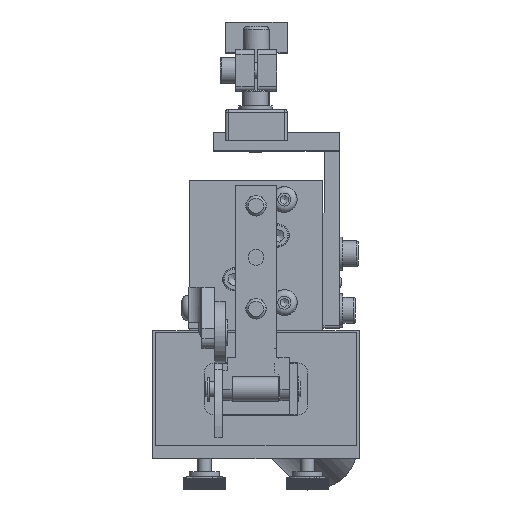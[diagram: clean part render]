
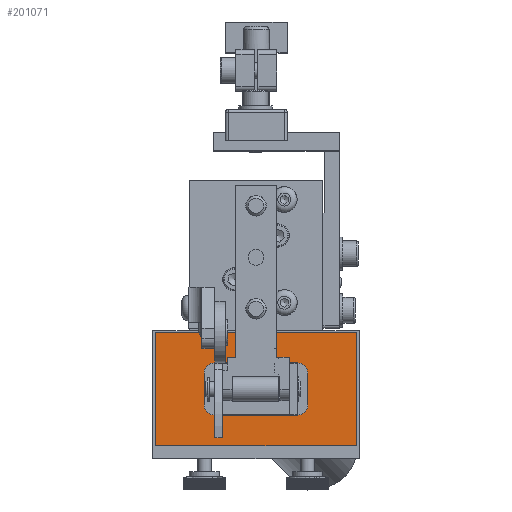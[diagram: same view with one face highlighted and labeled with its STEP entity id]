
A CAD part, top view. The second image highlights one B-rep face of the part: STEP entity #201071.
In plain terms, the highlighted planar face has unit normal (0, 0, 1).
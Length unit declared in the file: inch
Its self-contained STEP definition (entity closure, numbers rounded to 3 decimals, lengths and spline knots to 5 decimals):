
#200602=CARTESIAN_POINT('',(0.73008,1.04115,1.45));
#200603=VERTEX_POINT('',#200602);
#200610=CARTESIAN_POINT('',(0.73008,-0.33285,1.45));
#200611=VERTEX_POINT('',#200610);
#200612=CARTESIAN_POINT('',(0.73008,1.04115,1.45));
#200613=DIRECTION('',(0.0,-1.0,0.0));
#200614=VECTOR('',#200613,1.374);
#200615=LINE('',#200612,#200614);
#200616=EDGE_CURVE('',#200603,#200611,#200615,.T.);
#200634=CARTESIAN_POINT('',(-1.70592,-0.33285,1.45));
#200635=VERTEX_POINT('',#200634);
#200636=CARTESIAN_POINT('',(0.73008,-0.33285,1.45));
#200637=DIRECTION('',(-1.0,0.0,0.0));
#200638=VECTOR('',#200637,2.436);
#200639=LINE('',#200636,#200638);
#200640=EDGE_CURVE('',#200611,#200635,#200639,.T.);
#200658=CARTESIAN_POINT('',(-1.70592,1.04115,1.45));
#200659=VERTEX_POINT('',#200658);
#200660=CARTESIAN_POINT('',(-1.70592,-0.33285,1.45));
#200661=DIRECTION('',(0.0,1.0,0.0));
#200662=VECTOR('',#200661,1.374);
#200663=LINE('',#200660,#200662);
#200664=EDGE_CURVE('',#200635,#200659,#200663,.T.);
#200682=CARTESIAN_POINT('',(-1.70592,1.04115,1.45));
#200683=DIRECTION('',(1.0,0.0,0.0));
#200684=VECTOR('',#200683,2.436);
#200685=LINE('',#200682,#200684);
#200686=EDGE_CURVE('',#200659,#200603,#200685,.T.);
#200866=CARTESIAN_POINT('',(0.01708,0.03815,1.45));
#200867=VERTEX_POINT('',#200866);
#200868=CARTESIAN_POINT('',(-0.99292,0.03815,1.45));
#200869=VERTEX_POINT('',#200868);
#200870=CARTESIAN_POINT('',(0.01708,0.03815,1.45));
#200871=DIRECTION('',(-1.0,0.0,0.0));
#200872=VECTOR('',#200871,1.01);
#200873=LINE('',#200870,#200872);
#200874=EDGE_CURVE('',#200867,#200869,#200873,.T.);
#200906=CARTESIAN_POINT('',(0.14208,0.16315,1.45));
#200907=VERTEX_POINT('',#200906);
#200908=CARTESIAN_POINT('',(0.01708,0.16315,1.45));
#200909=DIRECTION('',(0.0,0.0,-1.0));
#200910=DIRECTION('',(0.0,-1.0,0.0));
#200911=AXIS2_PLACEMENT_3D('',#200908,#200909,#200910);
#200912=CIRCLE('',#200911,0.125);
#200913=EDGE_CURVE('',#200907,#200867,#200912,.T.);
#200939=CARTESIAN_POINT('',(0.14208,0.54515,1.45));
#200940=VERTEX_POINT('',#200939);
#200941=CARTESIAN_POINT('',(0.14208,0.54515,1.45));
#200942=DIRECTION('',(0.0,-1.0,0.0));
#200943=VECTOR('',#200942,0.382);
#200944=LINE('',#200941,#200943);
#200945=EDGE_CURVE('',#200940,#200907,#200944,.T.);
#200970=CARTESIAN_POINT('',(0.01708,0.67015,1.45));
#200971=VERTEX_POINT('',#200970);
#200972=CARTESIAN_POINT('',(0.01708,0.54515,1.45));
#200973=DIRECTION('',(0.0,0.0,-1.0));
#200974=DIRECTION('',(1.0,0.0,0.0));
#200975=AXIS2_PLACEMENT_3D('',#200972,#200973,#200974);
#200976=CIRCLE('',#200975,0.125);
#200977=EDGE_CURVE('',#200971,#200940,#200976,.T.);
#201003=CARTESIAN_POINT('',(-0.99292,0.67015,1.45));
#201004=VERTEX_POINT('',#201003);
#201005=CARTESIAN_POINT('',(-0.99292,0.67015,1.45));
#201006=DIRECTION('',(1.0,0.0,0.0));
#201007=VECTOR('',#201006,1.01);
#201008=LINE('',#201005,#201007);
#201009=EDGE_CURVE('',#201004,#200971,#201008,.T.);
#201029=CARTESIAN_POINT('',(-0.48792,0.35415,1.45));
#201030=DIRECTION('',(0.0,0.0,1.0));
#201031=DIRECTION('',(1.0,0.0,0.0));
#201032=AXIS2_PLACEMENT_3D('',#201029,#201030,#201031);
#201033=PLANE('',#201032);
#201034=ORIENTED_EDGE('',*,*,#200686,.F.);
#201035=ORIENTED_EDGE('',*,*,#200664,.F.);
#201036=ORIENTED_EDGE('',*,*,#200640,.F.);
#201037=ORIENTED_EDGE('',*,*,#200616,.F.);
#201038=EDGE_LOOP('',(#201034,#201035,#201036,#201037));
#201039=FACE_OUTER_BOUND('',#201038,.T.);
#201040=ORIENTED_EDGE('',*,*,#200874,.T.);
#201041=CARTESIAN_POINT('',(-1.11792,0.16315,1.45));
#201042=VERTEX_POINT('',#201041);
#201043=CARTESIAN_POINT('',(-0.99292,0.16315,1.45));
#201044=DIRECTION('',(0.0,0.0,-1.0));
#201045=DIRECTION('',(-1.0,0.0,0.0));
#201046=AXIS2_PLACEMENT_3D('',#201043,#201044,#201045);
#201047=CIRCLE('',#201046,0.125);
#201048=EDGE_CURVE('',#200869,#201042,#201047,.T.);
#201049=ORIENTED_EDGE('',*,*,#201048,.T.);
#201050=CARTESIAN_POINT('',(-1.11792,0.54515,1.45));
#201051=VERTEX_POINT('',#201050);
#201052=CARTESIAN_POINT('',(-1.11792,0.16315,1.45));
#201053=DIRECTION('',(0.0,1.0,0.0));
#201054=VECTOR('',#201053,0.382);
#201055=LINE('',#201052,#201054);
#201056=EDGE_CURVE('',#201042,#201051,#201055,.T.);
#201057=ORIENTED_EDGE('',*,*,#201056,.T.);
#201058=CARTESIAN_POINT('',(-0.99292,0.54515,1.45));
#201059=DIRECTION('',(0.0,0.0,-1.0));
#201060=DIRECTION('',(0.0,1.0,0.0));
#201061=AXIS2_PLACEMENT_3D('',#201058,#201059,#201060);
#201062=CIRCLE('',#201061,0.125);
#201063=EDGE_CURVE('',#201051,#201004,#201062,.T.);
#201064=ORIENTED_EDGE('',*,*,#201063,.T.);
#201065=ORIENTED_EDGE('',*,*,#201009,.T.);
#201066=ORIENTED_EDGE('',*,*,#200977,.T.);
#201067=ORIENTED_EDGE('',*,*,#200945,.T.);
#201068=ORIENTED_EDGE('',*,*,#200913,.T.);
#201069=EDGE_LOOP('',(#201040,#201049,#201057,#201064,#201065,#201066,#201067,#201068));
#201070=FACE_BOUND('',#201069,.T.);
#201071=ADVANCED_FACE('',(#201039,#201070),#201033,.T.);
